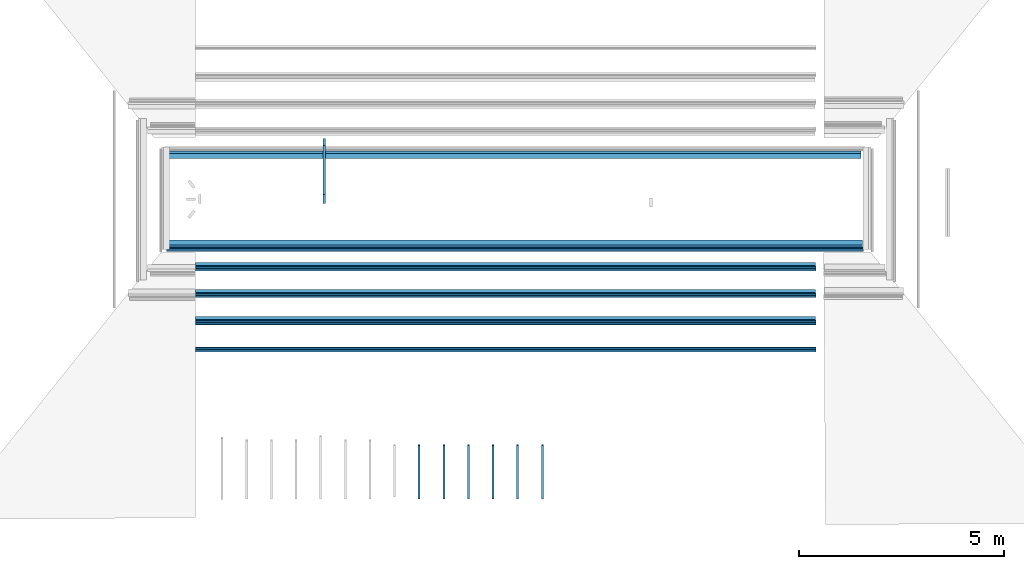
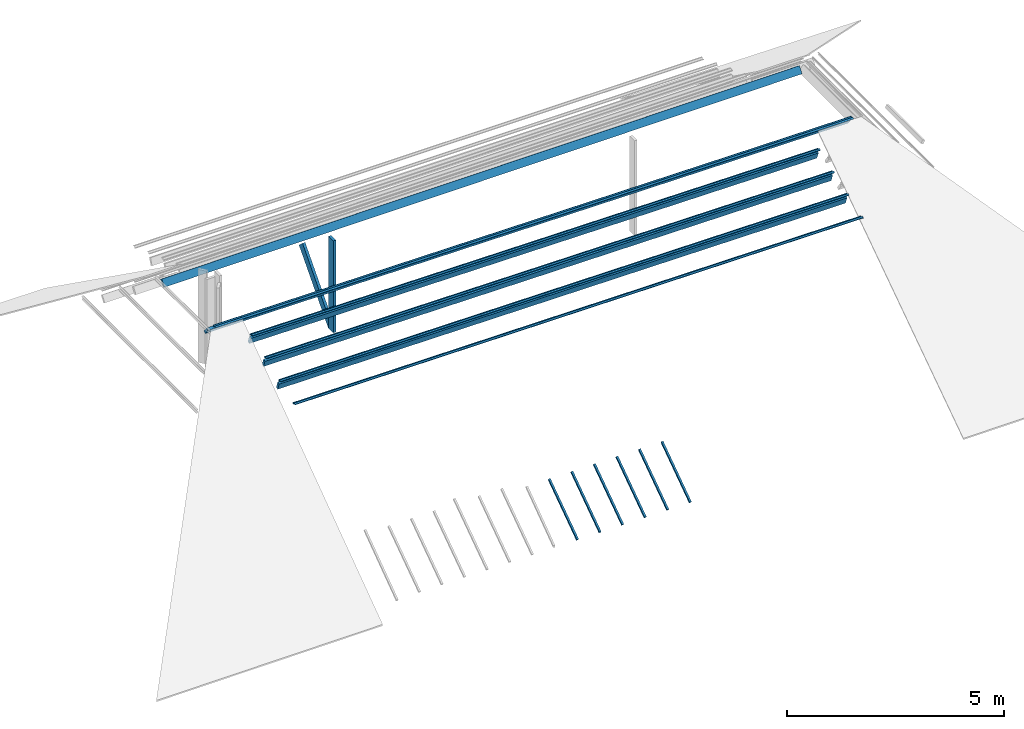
# One storey, part 2 of 6: 18 beams.
"""IFC2X3 building model written with IfcOpenShell, lengths in centimetres."""

from ifc_helpers import new_model, entity, si_unit, converted_unit, direction, frame, frame_2d, origin, place, context, subcontext, project, spatial, polyline, circle_curve, parameter, trimmed, segment, composite_curve, rectangle, outline, extrude, clip, bounded_halfspace, material, type_object, element, save


model = new_model("IFC2X3")

# Units and contexts
model_context = context("Model", 3, precision=0.001, world=frame((0.0, 0.0, 13090.0)), true_north=direction((6.123233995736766e-17, 1.0)))
body_context = subcontext(model_context, "Body", "Model", "MODEL_VIEW")
ifc_project = project(units=[si_unit("LENGTHUNIT", "METRE", prefix="CENTI"), si_unit("AREAUNIT", "SQUARE_METRE"), si_unit("VOLUMEUNIT", "CUBIC_METRE"), converted_unit("PLANEANGLEUNIT", "DEGREE", entity("IfcPlaneAngleMeasure", 0.017453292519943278), si_unit("PLANEANGLEUNIT", "RADIAN"), dimensions=[0, 0, 0, 0, 0, 0, 0])], contexts=[model_context])

# Site, building, storey
site_placement = place(None, origin())
site = spatial("IfcSite", under=ifc_project, at=site_placement, Name="Default", CompositionType="ELEMENT")
building_placement = place(site_placement, origin())
building = spatial("IfcBuilding", under=site, at=building_placement, Name="e 39 logements et 22 maisons relais", CompositionType="ELEMENT")
storey_placement = place(building_placement, frame((0.0, 0.0, 810.0)))
storey = spatial("IfcBuildingStorey", under=building, at=storey_placement, Name="R+3", CompositionType="ELEMENT", Elevation=810.0000000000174)

# Beams
ifc_material_1 = material(Name="Bois - Bois de construction de dimensions courantes")
beam_type_1 = type_object("IfcBeamType", Name="Poutre - Bois de construction de dimensions courantes:70 220", PredefinedType="BEAM")
beam_1_placement = place(storey_placement, frame((-609.2819705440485, -11.897903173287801, 193.24651256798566), z_axis=(1.0, 0.0, 0.0), x_axis=(0.0, 0.0, -1.0)))
element("IfcBeam", 1, at=beam_1_placement, inside=storey, type_object=beam_type_1, material=ifc_material_1, Name="Poutre - Bois de construction de dimensions courantes:70 220", ObjectType="Poutre - Bois de construction de dimensions courantes:70 220", context=body_context, shape_type="SweptSolid", body=[
    extrude(rectangle(XDim=7.000000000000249, YDim=21.99999999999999, at=frame_2d((5.417888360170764e-14, -5.329070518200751e-15), x_axis=(1.0, 0.0))), frame((158.60879139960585, -11.0, 0.0), z_axis=(1.0, 0.0, 0.0), x_axis=(0.0, 0.0, -1.0)), (0.0, 0.0, 1.0), 258.3119961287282),
])
beam_2_placement = place(storey_placement, frame((-609.2819705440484, 242.00510839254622, 92.33003098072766), z_axis=(1.0, 0.0, 0.0), x_axis=(0.0, -0.6653624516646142, -0.7465204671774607)))
element("IfcBeam", 2, at=beam_2_placement, inside=storey, type_object=beam_type_1, material=ifc_material_1, Name="Poutre - Bois de construction de dimensions courantes:70 220", ObjectType="Poutre - Bois de construction de dimensions courantes:70 220", context=body_context, shape_type="Clipping", body=[
    clip(clip(extrude(rectangle(XDim=21.999999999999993, YDim=7.00000000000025, at=frame_2d((-5.417888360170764e-14, -1.509903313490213e-14), x_axis=(0.0, 1.0))), frame((201.08738026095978, 11.0, 0.0), z_axis=(1.0, 0.0, 0.0), x_axis=(0.0, 0.0, -1.0)), (0.0, 0.0, 1.0), 203.7538321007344), bounded_halfspace(frame((396.3245729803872, 30.26906690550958, 409.3014635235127), z_axis=(0.7465204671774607, 0.6653624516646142, 0.0), x_axis=(0.0, 0.0, -1.0)), False, frame((201.08738026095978, 11.0, 0.0), z_axis=(1.0, 0.0, 0.0), x_axis=(0.0, 0.0, -1.0)), polyline([(-3.500000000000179, 9.71360492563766), (3.5000000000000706, 9.71360492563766), (3.500000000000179, 11.0), (-3.500000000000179, 11.0), (-3.500000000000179, 9.71360492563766)]))), bounded_halfspace(frame((404.8412123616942, 20.71360492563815, 409.3014635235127), z_axis=(0.6653624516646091, -0.7465204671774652, 0.0), x_axis=(0.0, 0.0, -1.0)), False, frame((201.08738026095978, 11.0, 0.0), z_axis=(1.0, 0.0, 0.0), x_axis=(0.0, 0.0, -1.0)), polyline([(3.5000000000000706, 9.71360492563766), (-3.500000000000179, 9.71360492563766), (-3.5000000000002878, -11.0), (3.50000000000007, -11.0), (3.5000000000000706, 9.71360492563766)]))),
])
beam_type_2 = type_object("IfcBeamType", Name="Poutre - Bois de construction de dimensions courantes:70 200", PredefinedType="BEAM")
beam_3_placement = place(storey_placement, frame((-470.70394401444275, 91.59432943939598, -11.30000000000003), z_axis=(-0.0035214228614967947, 0.0, 0.9999937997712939), x_axis=(-0.9999937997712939, 0.0, -0.0035214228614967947)))
element("IfcBeam", 3, at=beam_3_placement, inside=storey, type_object=beam_type_2, material=ifc_material_1, Name="Poutre - Bois de construction de dimensions courantes:70 200", ObjectType="Poutre - Bois de construction de dimensions courantes:70 200", context=body_context, shape_type="SweptSolid", body=[
    extrude(rectangle(XDim=19.999999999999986, YDim=7.000000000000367, at=frame_2d((-3.552713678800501e-14, 4.263256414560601e-14), x_axis=(1.0, 0.0))), frame((-1168.617695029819, 6.054188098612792, -8.332875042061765), z_axis=(1.0, 0.0, 0.0), x_axis=(0.0, -0.5877852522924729, 0.8090169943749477)), (0.0, 0.0, 1.0), 1696.225048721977),
])
beam_4_placement = place(storey_placement, frame((-470.70394401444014, -137.88372991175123, -13.700000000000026), z_axis=(0.004172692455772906, 0.0, 0.99999129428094), x_axis=(-0.99999129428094, 0.0, 0.004172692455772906)))
element("IfcBeam", 4, at=beam_4_placement, inside=storey, type_object=beam_type_2, material=ifc_material_1, Name="Poutre - Bois de construction de dimensions courantes:70 200", ObjectType="Poutre - Bois de construction de dimensions courantes:70 200", context=body_context, shape_type="SweptSolid", body=[
    extrude(rectangle(XDim=20.00000000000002, YDim=7.000000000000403, at=frame_2d((0.0, 0.0), x_axis=(0.0, 1.0))), frame((-1172.6617280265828, -6.619965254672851, -8.784990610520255), z_axis=(1.0, 0.0, 0.0), x_axis=(0.0, -0.7986355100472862, 0.6018150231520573)), (0.0, 0.0, 1.0), 1709.7882187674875),
])
beam_5_placement = place(storey_placement, frame((-570.9302602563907, -186.9313176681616, -37.29999999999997), z_axis=(0.004632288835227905, 0.0, 0.9999892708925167), x_axis=(-0.9999892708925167, 0.0, 0.004632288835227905)))
element("IfcBeam", 5, at=beam_5_placement, inside=storey, type_object=beam_type_2, material=ifc_material_1, Name="Poutre - Bois de construction de dimensions courantes:70 200", ObjectType="Poutre - Bois de construction de dimensions courantes:70 200", context=body_context, shape_type="SweptSolid", body=[
    extrude(rectangle(XDim=20.000000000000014, YDim=7.00000000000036, at=frame_2d((3.68594044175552e-14, -1.021405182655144e-13), x_axis=(0.0, 1.0))), frame((-1158.0708358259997, -3.0097772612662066, -8.269295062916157), z_axis=(1.0, 0.0, 0.0), x_axis=(0.0, -0.9396926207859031, 0.34202014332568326)), (0.0, 0.0, 1.0), 1510.1712385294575),
])
beam_6_placement = place(storey_placement, frame((-570.9302602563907, -252.59031341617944, -61.400000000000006), z_axis=(0.003874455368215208, 0.0, 0.9999924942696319), x_axis=(-0.9999924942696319, 0.0, 0.003874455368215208)))
element("IfcBeam", 6, at=beam_6_placement, inside=storey, type_object=beam_type_2, material=ifc_material_1, Name="Poutre - Bois de construction de dimensions courantes:70 200", ObjectType="Poutre - Bois de construction de dimensions courantes:70 200", context=body_context, shape_type="SweptSolid", body=[
    extrude(rectangle(XDim=19.99999999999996, YDim=7.000000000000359, at=frame_2d((3.241851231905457e-14, 7.016609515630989e-14), x_axis=(0.0, 1.0))), frame((-1158.0711928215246, -3.0781812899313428, -8.457233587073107), z_axis=(1.0, 0.0, 0.0), x_axis=(0.0, -0.9396926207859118, 0.3420201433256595)), (0.0, 0.0, 1.0), 1510.1712385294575),
])
beam_7_placement = place(storey_placement, frame((-570.9302602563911, -318.2918392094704, -85.44999999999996), z_axis=(0.003414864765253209, 0.0, 0.9999941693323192), x_axis=(-0.9999941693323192, 0.0, 0.003414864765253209)))
element("IfcBeam", 7, at=beam_7_placement, inside=storey, type_object=beam_type_2, material=ifc_material_1, Name="Poutre - Bois de construction de dimensions courantes:70 200", ObjectType="Poutre - Bois de construction de dimensions courantes:70 200", context=body_context, shape_type="SweptSolid", body=[
    extrude(rectangle(XDim=19.999999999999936, YDim=7.000000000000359, at=frame_2d((8.79296635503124e-14, -8.348877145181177e-14), x_axis=(0.0, 1.0))), frame((-1158.071378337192, -3.0781812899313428, -8.457233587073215), z_axis=(1.0, 0.0, 0.0), x_axis=(0.0, -0.9396926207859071, 0.3420201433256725)), (0.0, 0.0, 1.0), 1510.1712385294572),
])
ifc_material_2 = material(Name="neuf")
beam_type_3 = type_object("IfcBeamType", Name="panne z:panne z", PredefinedType="BEAM")
beam_8_placement = place(storey_placement, frame((-570.9302602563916, -146.09307363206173, -5.255005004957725), z_axis=(0.003950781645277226, 1.463751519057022e-08, 0.9999921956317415), x_axis=(-0.9999921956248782, -3.70493797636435e-06, 0.003950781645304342)))
element("IfcBeam", 8, at=beam_8_placement, inside=storey, type_object=beam_type_3, material=ifc_material_2, Name="panne z:panne z", ObjectType="panne z:panne z", context=body_context, shape_type="SweptSolid", body=[
    extrude(outline(composite_curve([segment(polyline([(-4.599999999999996, -3.0), (-0.3000000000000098, -3.0)]), True, "CONTINUOUS"), segment(trimmed(circle_curve(frame_2d((-0.29999999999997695, -2.5999999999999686), x_axis=(0.0, -1.0)), 0.39999999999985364), [parameter(0.0)], [parameter(90.00000000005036)], True, "PARAMETER"), True, "CONTINUOUS"), segment(polyline([(0.09999999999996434, -2.5999999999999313), (0.10000000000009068, 2.6000000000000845)]), True, "CONTINUOUS"), segment(trimmed(circle_curve(frame_2d((0.3000000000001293, 2.59999999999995), x_axis=(-1.0, 0.0)), 0.20000000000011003), [parameter(270.0000000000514)], [parameter(0.0)], True, "PARAMETER"), False, "CONTINUOUS"), segment(polyline([(0.30000000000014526, 2.799999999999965), (4.600000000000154, 2.7999999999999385)]), True, "CONTINUOUS"), segment(trimmed(circle_curve(frame_2d((4.600000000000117, 2.5999999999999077), x_axis=(0.0, 1.0)), 0.2000000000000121), [parameter(269.99999999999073)], [parameter(0.0)], True, "PARAMETER"), False, "CONTINUOUS"), segment(polyline([(4.80000000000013, 2.5999999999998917), (4.800000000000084, 1.0)]), True, "CONTINUOUS"), segment(polyline([(4.80000000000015, 1.0), (5.0, 1.0)]), True, "CONTINUOUS"), segment(polyline([(5.0, 1.0), (5.0, 2.5999999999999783)]), True, "CONTINUOUS"), segment(trimmed(circle_curve(frame_2d((4.600000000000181, 2.5999999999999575), x_axis=(1.0, 0.0)), 0.39999999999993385), [parameter(0.0)], [parameter(90.00000000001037)], True, "PARAMETER"), True, "CONTINUOUS"), segment(polyline([(4.600000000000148, 3.0), (0.30000000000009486, 3.0)]), True, "CONTINUOUS"), segment(trimmed(circle_curve(frame_2d((0.29999999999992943, 2.6000000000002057), x_axis=(0.0, 1.0)), 0.3999999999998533), [parameter(0.0)], [parameter(90.00000000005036)], True, "PARAMETER"), True, "CONTINUOUS"), segment(polyline([(-0.09999999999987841, 2.599999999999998), (-0.09999999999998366, -2.6000000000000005)]), True, "CONTINUOUS"), segment(trimmed(circle_curve(frame_2d((-0.30000000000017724, -2.5999999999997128), x_axis=(1.0, 0.0)), 0.20000000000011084), [parameter(270.0000000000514)], [parameter(0.0)], True, "PARAMETER"), False, "CONTINUOUS"), segment(polyline([(-0.3000000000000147, -2.8), (-4.6000000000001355, -2.7999999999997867)]), True, "CONTINUOUS"), segment(trimmed(circle_curve(frame_2d((-4.600000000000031, -2.5999999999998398), x_axis=(0.0, -1.0)), 0.20000000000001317), [parameter(269.99999999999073)], [parameter(0.0)], True, "PARAMETER"), False, "CONTINUOUS"), segment(polyline([(-4.7999999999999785, -2.5999999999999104), (-4.799999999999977, -1.0)]), True, "CONTINUOUS"), segment(polyline([(-4.799999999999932, -1.0), (-5.0, -1.0)]), True, "CONTINUOUS"), segment(polyline([(-5.0, -1.0), (-5.0, -2.599999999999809)]), True, "CONTINUOUS"), segment(trimmed(circle_curve(frame_2d((-4.600000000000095, -2.5999999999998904), x_axis=(-1.0, 0.0)), 0.3999999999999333), [parameter(0.0)], [parameter(90.00000000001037)], True, "PARAMETER"), True, "CONTINUOUS")], self_intersect=False)), frame((-1275.051540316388, -1.528338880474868, -1.9561845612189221), z_axis=(1.0, 0.0, 0.0), x_axis=(0.0, -0.7880107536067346, 0.615661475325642)), (0.0, 0.0, 1.0), 1697.604979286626),
])
beam_9_placement = place(storey_placement, frame((-570.930260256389, -193.6906050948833, -21.599999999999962), z_axis=(0.004514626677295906, 0.0, 0.9999898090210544), x_axis=(-0.9999898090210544, 0.0, 0.004514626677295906)))
element("IfcBeam", 9, at=beam_9_placement, inside=storey, type_object=beam_type_3, material=ifc_material_2, Name="panne z:panne z", ObjectType="panne z:panne z", context=body_context, shape_type="SweptSolid", body=[
    extrude(outline(composite_curve([segment(polyline([(-4.600000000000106, -3.0), (-0.3000000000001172, -3.0)]), True, "CONTINUOUS"), segment(trimmed(circle_curve(frame_2d((-0.30000000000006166, -2.5999999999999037), x_axis=(0.0, -1.0)), 0.39999999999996), [parameter(0.0)], [parameter(89.99999999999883)], True, "PARAMETER"), True, "CONTINUOUS"), segment(polyline([(0.09999999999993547, -2.599999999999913), (0.09999999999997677, 2.6000000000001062)]), True, "CONTINUOUS"), segment(trimmed(circle_curve(frame_2d((0.3000000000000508, 2.6000000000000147), x_axis=(-1.0, 0.0)), 0.20000000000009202), [parameter(270.0000000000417)], [parameter(0.0)], True, "PARAMETER"), False, "CONTINUOUS"), segment(polyline([(0.30000000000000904, 2.799999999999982), (4.600000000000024, 2.800000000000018)]), True, "CONTINUOUS"), segment(trimmed(circle_curve(frame_2d((4.5999999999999, 2.6000000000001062), x_axis=(0.0, 1.0)), 0.20000000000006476), [parameter(270.0000000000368)], [parameter(0.0)], True, "PARAMETER"), False, "CONTINUOUS"), segment(polyline([(4.7999999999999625, 2.600000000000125), (4.799999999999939, 1.0)]), True, "CONTINUOUS"), segment(polyline([(4.799999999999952, 1.0), (5.0, 1.0)]), True, "CONTINUOUS"), segment(polyline([(5.0, 1.0), (5.0, 2.600000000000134)]), True, "CONTINUOUS"), segment(trimmed(circle_curve(frame_2d((4.599999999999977, 2.600000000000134), x_axis=(1.0, 0.0)), 0.39999999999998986), [parameter(0.0)], [parameter(90.00000000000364)], True, "PARAMETER"), True, "CONTINUOUS"), segment(polyline([(4.600000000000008, 3.0), (0.2999999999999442, 3.0)]), True, "CONTINUOUS"), segment(trimmed(circle_curve(frame_2d((0.2999999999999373, 2.600000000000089), x_axis=(0.0, 1.0)), 0.3999999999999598), [parameter(0.0)], [parameter(89.99999999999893)], True, "PARAMETER"), True, "CONTINUOUS"), segment(polyline([(-0.10000000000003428, 2.6000000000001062), (-0.10000000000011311, -2.5999999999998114)]), True, "CONTINUOUS"), segment(trimmed(circle_curve(frame_2d((-0.3000000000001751, -2.59999999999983), x_axis=(1.0, 0.0)), 0.200000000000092), [parameter(270.00000000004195)], [parameter(0.0)], True, "PARAMETER"), False, "CONTINUOUS"), segment(polyline([(-0.3000000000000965, -2.7999999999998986), (-4.6000000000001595, -2.7999999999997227)]), True, "CONTINUOUS"), segment(trimmed(circle_curve(frame_2d((-4.599999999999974, -2.5999999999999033), x_axis=(0.0, -1.0)), 0.2000000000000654), [parameter(270.0000000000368)], [parameter(0.0)], True, "PARAMETER"), False, "CONTINUOUS"), segment(polyline([(-4.800000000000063, -2.5999999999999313), (-4.800000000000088, -1.0)]), True, "CONTINUOUS"), segment(polyline([(-4.8000000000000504, -1.0), (-5.0, -1.0)]), True, "CONTINUOUS"), segment(polyline([(-5.0, -1.0), (-5.0, -2.5999999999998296)]), True, "CONTINUOUS"), segment(trimmed(circle_curve(frame_2d((-4.60000000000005, -2.5999999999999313), x_axis=(-1.0, 0.0)), 0.3999999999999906), [parameter(0.0)], [parameter(90.00000000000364)], True, "PARAMETER"), True, "CONTINUOUS")], self_intersect=False)), frame((-1159.7812856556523, -1.9435068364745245, -5.339741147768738), z_axis=(1.0, 0.0, 0.0), x_axis=(0.0, -0.9396926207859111, 0.3420201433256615)), (0.0, 0.0, 1.0), 1511.8827574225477),
])
beam_10_placement = place(storey_placement, frame((-570.9302602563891, -259.2654165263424, -45.14195665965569), z_axis=(0.0040631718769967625, 0.0, 0.9999917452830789), x_axis=(-0.9999917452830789, 0.0, 0.0040631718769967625)))
element("IfcBeam", 10, at=beam_10_placement, inside=storey, type_object=beam_type_3, material=ifc_material_2, Name="panne z:panne z", ObjectType="panne z:panne z", context=body_context, shape_type="SweptSolid", body=[
    extrude(outline(composite_curve([segment(polyline([(-4.59999999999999, -3.0), (-0.30000000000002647, -3.0)]), True, "CONTINUOUS"), segment(trimmed(circle_curve(frame_2d((-0.30000000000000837, -2.599999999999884), x_axis=(0.0, -1.0)), 0.4000000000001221), [parameter(0.0)], [parameter(89.99999999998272)], True, "PARAMETER"), True, "CONTINUOUS"), segment(polyline([(0.10000000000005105, -2.5999999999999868), (0.1000000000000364, 2.6000000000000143)]), True, "CONTINUOUS"), segment(trimmed(circle_curve(frame_2d((0.299999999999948, 2.6000000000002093), x_axis=(-1.0, 0.0)), 0.19999999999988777), [parameter(269.9999999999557)], [parameter(0.0)], True, "PARAMETER"), False, "CONTINUOUS"), segment(polyline([(0.3000000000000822, 2.8000000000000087), (4.600000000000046, 2.800000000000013)]), True, "CONTINUOUS"), segment(trimmed(circle_curve(frame_2d((4.600000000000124, 2.5999999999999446), x_axis=(0.0, 1.0)), 0.1999999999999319), [parameter(269.9999999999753)], [parameter(0.0)], True, "PARAMETER"), False, "CONTINUOUS"), segment(polyline([(4.799999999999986, 2.6000000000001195), (4.799999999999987, 1.0)]), True, "CONTINUOUS"), segment(polyline([(4.800000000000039, 1.0), (5.0, 1.0)]), True, "CONTINUOUS"), segment(polyline([(5.0, 1.0), (5.0, 2.6000000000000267)]), True, "CONTINUOUS"), segment(trimmed(circle_curve(frame_2d((4.600000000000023, 2.5999999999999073), x_axis=(1.0, 0.0)), 0.40000000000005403), [parameter(0.0)], [parameter(89.99999999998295)], True, "PARAMETER"), True, "CONTINUOUS"), segment(polyline([(4.600000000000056, 3.0), (0.3000000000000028, 3.0)]), True, "CONTINUOUS"), segment(trimmed(circle_curve(frame_2d((0.3000000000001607, 2.5999999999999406), x_axis=(0.0, 1.0)), 0.4000000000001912), [parameter(0.0)], [parameter(89.99999999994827)], True, "PARAMETER"), True, "CONTINUOUS"), segment(polyline([(-0.09999999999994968, 2.600000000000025), (-0.10000000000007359, -2.599999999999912)]), True, "CONTINUOUS"), segment(trimmed(circle_curve(frame_2d((-0.2999999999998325, -2.6000000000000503), x_axis=(1.0, 0.0)), 0.19999999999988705), [parameter(269.99999999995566)], [parameter(0.0)], True, "PARAMETER"), False, "CONTINUOUS"), segment(polyline([(-0.29999999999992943, -2.799999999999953), (-4.600000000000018, -2.7999999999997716)]), True, "CONTINUOUS"), segment(trimmed(circle_curve(frame_2d((-4.599999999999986, -2.6000000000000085), x_axis=(0.0, -1.0)), 0.19999999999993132), [parameter(269.99999999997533)], [parameter(0.0)], True, "PARAMETER"), False, "CONTINUOUS"), segment(polyline([(-4.799999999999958, -2.599999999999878), (-4.799999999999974, -1.0)]), True, "CONTINUOUS"), segment(polyline([(-4.799999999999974, -1.0), (-5.0, -1.0)]), True, "CONTINUOUS"), segment(polyline([(-5.0, -1.0), (-5.0, -2.599999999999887)]), True, "CONTINUOUS"), segment(trimmed(circle_curve(frame_2d((-4.5999999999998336, -2.5999999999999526), x_axis=(-1.0, 0.0)), 0.4000000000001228), [parameter(0.0)], [parameter(89.99999999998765)], True, "PARAMETER"), True, "CONTINUOUS")], self_intersect=False)), frame((-1159.781285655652, -2.1145169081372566, -5.80958745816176), z_axis=(1.0, 0.0, 0.0), x_axis=(0.0, -0.9396926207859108, 0.3420201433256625)), (0.0, 0.0, 1.0), 1511.882328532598),
])
beam_11_placement = place(storey_placement, frame((-570.9302602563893, -325.5046248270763, -68.9323825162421), z_axis=(0.003167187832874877, 0.0, 0.9999949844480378), x_axis=(-0.9999949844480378, 0.0, 0.003167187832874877)))
element("IfcBeam", 11, at=beam_11_placement, inside=storey, type_object=beam_type_3, material=ifc_material_2, Name="panne z:panne z", ObjectType="panne z:panne z", context=body_context, shape_type="SweptSolid", body=[
    extrude(outline(composite_curve([segment(polyline([(-4.600000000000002, -3.0), (-0.30000000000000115, -3.0)]), True, "CONTINUOUS"), segment(trimmed(circle_curve(frame_2d((-0.29999999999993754, -2.5999999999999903), x_axis=(0.0, -1.0)), 0.3999999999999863), [parameter(0.0)], [parameter(90.0000000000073)], True, "PARAMETER"), True, "CONTINUOUS"), segment(polyline([(0.10000000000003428, -2.6000000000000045), (0.0999999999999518, 2.599999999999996)]), True, "CONTINUOUS"), segment(trimmed(circle_curve(frame_2d((0.3000000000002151, 2.5999999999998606), x_axis=(-1.0, 0.0)), 0.2000000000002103), [parameter(270.00000000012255)], [parameter(0.0)], True, "PARAMETER"), False, "CONTINUOUS"), segment(polyline([(0.29999999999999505, 2.7999999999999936), (4.599999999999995, 2.7999999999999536)]), True, "CONTINUOUS"), segment(trimmed(circle_curve(frame_2d((4.599999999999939, 2.59999999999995), x_axis=(0.0, 1.0)), 0.20000000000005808), [parameter(270.00000000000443)], [parameter(0.0)], True, "PARAMETER"), False, "CONTINUOUS"), segment(polyline([(4.7999999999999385, 2.6000000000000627), (4.799999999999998, 1.0)]), True, "CONTINUOUS"), segment(polyline([(4.800000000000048, 1.0), (5.0, 1.0)]), True, "CONTINUOUS"), segment(polyline([(5.0, 1.0), (5.0, 2.5999999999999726)]), True, "CONTINUOUS"), segment(trimmed(circle_curve(frame_2d((4.599999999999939, 2.59999999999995), x_axis=(1.0, 0.0)), 0.4000000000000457), [parameter(0.0)], [parameter(89.999999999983)], True, "PARAMETER"), True, "CONTINUOUS"), segment(polyline([(4.600000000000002, 3.0), (0.2999999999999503, 3.0)]), True, "CONTINUOUS"), segment(trimmed(circle_curve(frame_2d((0.29999999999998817, 2.600000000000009), x_axis=(0.0, 1.0)), 0.3999999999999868), [parameter(0.0)], [parameter(90.0000000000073)], True, "PARAMETER"), True, "CONTINUOUS"), segment(polyline([(-0.10000000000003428, 2.6000000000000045), (-0.1000000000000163, -2.6000000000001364)]), True, "CONTINUOUS"), segment(trimmed(circle_curve(frame_2d((-0.30000000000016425, -2.599999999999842), x_axis=(1.0, 0.0)), 0.20000000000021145), [parameter(270.00000000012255)], [parameter(0.0)], True, "PARAMETER"), False, "CONTINUOUS"), segment(polyline([(-0.29999999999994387, -2.7999999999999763), (-4.599999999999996, -2.7999999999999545)]), True, "CONTINUOUS"), segment(trimmed(circle_curve(frame_2d((-4.5999999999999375, -2.59999999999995), x_axis=(0.0, -1.0)), 0.20000000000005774), [parameter(270.00000000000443)], [parameter(0.0)], True, "PARAMETER"), False, "CONTINUOUS"), segment(polyline([(-4.799999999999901, -2.6000000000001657), (-4.799999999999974, -1.0)]), True, "CONTINUOUS"), segment(polyline([(-4.8000000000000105, -1.0), (-5.0, -1.0)]), True, "CONTINUOUS"), segment(polyline([(-5.0, -1.0), (-5.0, -2.600000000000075)]), True, "CONTINUOUS"), segment(trimmed(circle_curve(frame_2d((-4.5999999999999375, -2.59999999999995), x_axis=(-1.0, 0.0)), 0.4000000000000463), [parameter(0.0)], [parameter(89.999999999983)], True, "PARAMETER"), True, "CONTINUOUS")], self_intersect=False)), frame((-1159.7812856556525, -2.3881330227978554, -6.56134155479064), z_axis=(1.0, 0.0, 0.0), x_axis=(0.0, -0.9396926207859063, 0.34202014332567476)), (0.0, 0.0, 1.0), 1511.8816110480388),
])
beam_12_placement = place(storey_placement, frame((-570.9302602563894, -391.41211565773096, -93.43402688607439), z_axis=(0.0024798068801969, 0.0, 0.9999969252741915), x_axis=(-0.9999969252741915, 0.0, 0.0024798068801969)))
element("IfcBeam", 12, at=beam_12_placement, inside=storey, type_object=beam_type_3, material=ifc_material_2, Name="panne z:panne z", ObjectType="panne z:panne z", context=body_context, shape_type="SweptSolid", body=[
    extrude(outline(composite_curve([segment(polyline([(-4.60000000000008, -3.0), (-0.30000000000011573, -3.0)]), True, "CONTINUOUS"), segment(trimmed(circle_curve(frame_2d((-0.30000000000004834, -2.5999999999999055), x_axis=(0.0, -1.0)), 0.400000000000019), [parameter(0.0)], [parameter(90.00000000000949)], True, "PARAMETER"), True, "CONTINUOUS"), segment(polyline([(0.09999999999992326, -2.5999999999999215), (0.09999999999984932, 2.6000000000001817)]), True, "CONTINUOUS"), segment(trimmed(circle_curve(frame_2d((0.30000000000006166, 2.6000000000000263), x_axis=(-1.0, 0.0)), 0.2000000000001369), [parameter(270.00000000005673)], [parameter(0.0)], True, "PARAMETER"), False, "CONTINUOUS"), segment(polyline([(0.29999999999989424, 2.800000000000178), (4.599999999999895, 2.8000000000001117)]), True, "CONTINUOUS"), segment(trimmed(circle_curve(frame_2d((4.599999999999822, 2.599999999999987), x_axis=(0.0, 1.0)), 0.20000000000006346), [parameter(270.00000000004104)], [parameter(0.0)], True, "PARAMETER"), False, "CONTINUOUS"), segment(polyline([(4.799999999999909, 2.600000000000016), (4.799999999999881, 1.0)]), True, "CONTINUOUS"), segment(polyline([(4.799999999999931, 1.0), (5.0, 1.0)]), True, "CONTINUOUS"), segment(polyline([(5.0, 1.0), (5.0, 2.599999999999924)]), True, "CONTINUOUS"), segment(trimmed(circle_curve(frame_2d((4.599999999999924, 2.6000000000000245), x_axis=(1.0, 0.0)), 0.4000000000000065), [parameter(0.0)], [parameter(89.99999999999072)], True, "PARAMETER"), True, "CONTINUOUS"), segment(polyline([(4.599999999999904, 3.0), (0.29999999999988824, 3.0)]), True, "CONTINUOUS"), segment(trimmed(circle_curve(frame_2d((0.29999999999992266, 2.600000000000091), x_axis=(0.0, 1.0)), 0.40000000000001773), [parameter(0.0)], [parameter(90.00000000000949)], True, "PARAMETER"), True, "CONTINUOUS"), segment(polyline([(-0.1000000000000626, 2.599999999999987), (-0.10000000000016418, -2.5999999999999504)]), True, "CONTINUOUS"), segment(trimmed(circle_curve(frame_2d((-0.3000000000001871, -2.59999999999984), x_axis=(1.0, 0.0)), 0.20000000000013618), [parameter(270.00000000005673)], [parameter(0.0)], True, "PARAMETER"), False, "CONTINUOUS"), segment(polyline([(-0.3000000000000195, -2.799999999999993), (-4.600000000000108, -2.7999999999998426)]), True, "CONTINUOUS"), segment(trimmed(circle_curve(frame_2d((-4.5999999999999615, -2.5999999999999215), x_axis=(0.0, -1.0)), 0.20000000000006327), [parameter(270.0000000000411)], [parameter(0.0)], True, "PARAMETER"), False, "CONTINUOUS"), segment(polyline([(-4.800000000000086, -2.5999999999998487), (-4.800000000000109, -1.0)]), True, "CONTINUOUS"), segment(polyline([(-4.800000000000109, -1.0), (-5.0, -1.0)]), True, "CONTINUOUS"), segment(polyline([(-5.0, -1.0), (-5.0, -2.599999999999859)]), True, "CONTINUOUS"), segment(trimmed(circle_curve(frame_2d((-4.600000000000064, -2.599999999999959), x_axis=(-1.0, 0.0)), 0.40000000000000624), [parameter(0.0)], [parameter(89.9999999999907)], True, "PARAMETER"), True, "CONTINUOUS")], self_intersect=False)), frame((-1159.7812856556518, -2.3539310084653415, -6.46737229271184), z_axis=(1.0, 0.0, 0.0), x_axis=(0.0, -0.9396926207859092, 0.34202014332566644)), (0.0, 0.0, 1.0), 1511.8811811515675),
])
beam_type_4 = type_object("IfcBeamType", Name="Poutre - Bois de construction de dimensions courantes:50 50", PredefinedType="BEAM")
beam_13_placement = place(storey_placement, frame((-77.98197054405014, -814.0366762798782, -408.12564750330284), z_axis=(0.0, -0.5726590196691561, 0.8197936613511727), x_axis=(0.0, 0.8197936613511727, 0.5726590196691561)))
element("IfcBeam", 13, at=beam_13_placement, inside=storey, type_object=beam_type_4, material=ifc_material_1, Name="Poutre - Bois de construction de dimensions courantes:50 50", ObjectType="Poutre - Bois de construction de dimensions courantes:50 50", context=body_context, shape_type="SweptSolid", body=[
    extrude(rectangle(XDim=5.000000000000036, YDim=5.000000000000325, at=frame_2d((6.661338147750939e-14, 1.3322676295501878e-14), x_axis=(1.0, 0.0))), frame((25.636345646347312, 0.0, -71.50000000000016), z_axis=(1.0, 0.0, 0.0), x_axis=(0.0, 0.0, -1.0)), (0.0, 0.0, 1.0), 159.42706277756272),
])
beam_14_placement = place(storey_placement, frame((-137.98197054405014, -814.036676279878, -408.12564750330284), z_axis=(0.0, -0.5726590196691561, 0.8197936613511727), x_axis=(0.0, 0.8197936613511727, 0.5726590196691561)))
element("IfcBeam", 14, at=beam_14_placement, inside=storey, type_object=beam_type_4, material=ifc_material_1, Name="Poutre - Bois de construction de dimensions courantes:50 50", ObjectType="Poutre - Bois de construction de dimensions courantes:50 50", context=body_context, shape_type="SweptSolid", body=[
    extrude(rectangle(XDim=4.999999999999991, YDim=5.000000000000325, at=frame_2d((-4.418687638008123e-14, 0.0), x_axis=(1.0, 0.0))), frame((25.63634564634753, 0.0, -71.50000000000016), z_axis=(1.0, 0.0, 0.0), x_axis=(0.0, 0.0, -1.0)), (0.0, 0.0, 1.0), 159.42706277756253),
])
beam_15_placement = place(storey_placement, frame((-197.98197054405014, -814.0366762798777, -408.12564750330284), z_axis=(0.0, -0.5726590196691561, 0.8197936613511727), x_axis=(0.0, 0.8197936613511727, 0.5726590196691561)))
element("IfcBeam", 15, at=beam_15_placement, inside=storey, type_object=beam_type_4, material=ifc_material_1, Name="Poutre - Bois de construction de dimensions courantes:50 50", ObjectType="Poutre - Bois de construction de dimensions courantes:50 50", context=body_context, shape_type="SweptSolid", body=[
    extrude(rectangle(XDim=4.999999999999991, YDim=5.000000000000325, at=frame_2d((7.527312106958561e-14, 0.0), x_axis=(1.0, 0.0))), frame((25.636345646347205, 0.0, -71.50000000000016), z_axis=(1.0, 0.0, 0.0), x_axis=(0.0, 0.0, -1.0)), (0.0, 0.0, 1.0), 159.4270627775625),
])
beam_16_placement = place(storey_placement, frame((-257.98197054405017, -814.0366762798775, -408.12564750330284), z_axis=(0.0, -0.5726590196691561, 0.8197936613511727), x_axis=(0.0, 0.8197936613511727, 0.5726590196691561)))
element("IfcBeam", 16, at=beam_16_placement, inside=storey, type_object=beam_type_4, material=ifc_material_1, Name="Poutre - Bois de construction de dimensions courantes:50 50", ObjectType="Poutre - Bois de construction de dimensions courantes:50 50", context=body_context, shape_type="SweptSolid", body=[
    extrude(rectangle(XDim=4.999999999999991, YDim=5.000000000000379, at=frame_2d((4.418687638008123e-14, 0.0), x_axis=(1.0, 0.0))), frame((25.636345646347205, 0.0, -71.50000000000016), z_axis=(1.0, 0.0, 0.0), x_axis=(0.0, 0.0, -1.0)), (0.0, 0.0, 1.0), 159.42706277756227),
])
beam_17_placement = place(storey_placement, frame((-317.98197054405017, -813.9651339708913, -408.07567230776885), z_axis=(0.0, -0.5726590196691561, 0.8197936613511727), x_axis=(0.0, 0.8197936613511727, 0.5726590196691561)))
element("IfcBeam", 17, at=beam_17_placement, inside=storey, type_object=beam_type_4, material=ifc_material_1, Name="Poutre - Bois de construction de dimensions courantes:50 50", ObjectType="Poutre - Bois de construction de dimensions courantes:50 50", context=body_context, shape_type="SweptSolid", body=[
    extrude(rectangle(XDim=5.000000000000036, YDim=5.000000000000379, at=frame_2d((7.527312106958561e-14, 0.0), x_axis=(1.0, 0.0))), frame((25.63634564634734, 0.0, -71.50000000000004), z_axis=(1.0, 0.0, 0.0), x_axis=(0.0, 0.0, -1.0)), (0.0, 0.0, 1.0), 159.4243917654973),
])
beam_18_placement = place(storey_placement, frame((-377.9819705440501, -813.9651339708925, -408.0756723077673), z_axis=(0.0, -0.5726590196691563, 0.8197936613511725), x_axis=(0.0, 0.8197936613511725, 0.5726590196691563)))
element("IfcBeam", 18, at=beam_18_placement, inside=storey, type_object=beam_type_4, material=ifc_material_1, Name="Poutre - Bois de construction de dimensions courantes:50 50", ObjectType="Poutre - Bois de construction de dimensions courantes:50 50", context=body_context, shape_type="SweptSolid", body=[
    extrude(rectangle(XDim=4.999999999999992, YDim=5.000000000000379, at=frame_2d((0.0, -5.417888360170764e-14), x_axis=(1.0, 0.0))), frame((25.636345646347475, 0.0, -71.49999999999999), z_axis=(1.0, 0.0, 0.0), x_axis=(0.0, 0.0, -1.0)), (0.0, 0.0, 1.0), 159.42706277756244),
])

save(model, "model.ifc")
